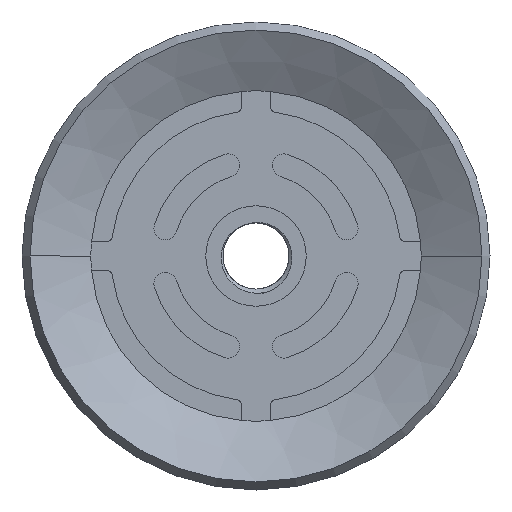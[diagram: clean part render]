
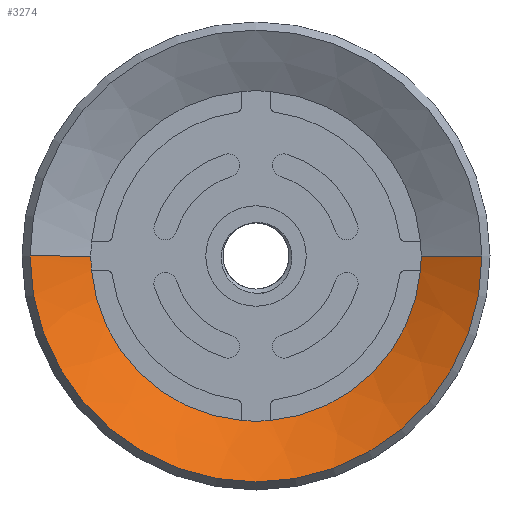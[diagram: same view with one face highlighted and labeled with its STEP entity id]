
A CAD part, front view. The second image highlights one B-rep face of the part: STEP entity #3274.
In plain terms, the highlighted conical face has half-angle 60.489 degrees and reference radius 39.35 mm.
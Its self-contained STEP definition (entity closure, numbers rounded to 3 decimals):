
#68 = CARTESIAN_POINT ( 'NONE',  ( 28.75, -12., 0. ) ) ;
#139 = DIRECTION ( 'NONE',  ( 0., 1., 0. ) ) ;
#183 = CARTESIAN_POINT ( 'NONE',  ( 0., -12., 0. ) ) ;
#202 = ORIENTED_EDGE ( 'NONE', *, *, #5468, .T. ) ;
#280 = AXIS2_PLACEMENT_3D ( 'NONE', #4096, #2733, #5382 ) ;
#539 = CARTESIAN_POINT ( 'NONE',  ( 0., -12., 0. ) ) ;
#724 = CARTESIAN_POINT ( 'NONE',  ( 0., -18., 0. ) ) ;
#816 = CARTESIAN_POINT ( 'NONE',  ( 0., -12., 0. ) ) ;
#1059 = DIRECTION ( 'NONE',  ( -1., 0., 0. ) ) ;
#1136 = DIRECTION ( 'NONE',  ( -1., 0., 0. ) ) ;
#1277 = AXIS2_PLACEMENT_3D ( 'NONE', #3463, #2163, #2586 ) ;
#1359 = VERTEX_POINT ( 'NONE', #3561 ) ;
#1434 = DIRECTION ( 'NONE',  ( -1., 0., 0. ) ) ;
#1455 = EDGE_CURVE ( 'NONE', #3969, #4336, #4588, .T. ) ;
#1485 = ORIENTED_EDGE ( 'NONE', *, *, #1761, .F. ) ;
#1657 = CARTESIAN_POINT ( 'NONE',  ( 28.641, -12., -2.5 ) ) ;
#1660 = DIRECTION ( 'NONE',  ( 0., 1., 0. ) ) ;
#1697 = CIRCLE ( 'NONE', #4687, 28.75 ) ;
#1745 = VERTEX_POINT ( 'NONE', #5141 ) ;
#1761 = EDGE_CURVE ( 'NONE', #4336, #5074, #3903, .T. ) ;
#1799 = DIRECTION ( 'NONE',  ( 0.87, -0.493, 0. ) ) ;
#1810 = LINE ( 'NONE', #4406, #2133 ) ;
#1840 = ORIENTED_EDGE ( 'NONE', *, *, #3744, .T. ) ;
#1861 = DIRECTION ( 'NONE',  ( 0., 0., -1. ) ) ;
#1987 = CIRCLE ( 'NONE', #1277, 28.75 ) ;
#2027 = CONICAL_SURFACE ( 'NONE', #280, 39.35, 1.056 ) ;
#2133 = VECTOR ( 'NONE', #3945, 1000. ) ;
#2142 = VERTEX_POINT ( 'NONE', #1657 ) ;
#2163 = DIRECTION ( 'NONE',  ( 0., 1., 0. ) ) ;
#2205 = CIRCLE ( 'NONE', #3449, 28.75 ) ;
#2257 = CIRCLE ( 'NONE', #4399, 39.35 ) ;
#2423 = EDGE_CURVE ( 'NONE', #1359, #3400, #3834, .T. ) ;
#2483 = CARTESIAN_POINT ( 'NONE',  ( 0., -18., 0. ) ) ;
#2486 = CARTESIAN_POINT ( 'NONE',  ( 0., -18., -39.35 ) ) ;
#2582 = CARTESIAN_POINT ( 'NONE',  ( -28.75, -12., 0. ) ) ;
#2586 = DIRECTION ( 'NONE',  ( -1., 0., 0. ) ) ;
#2670 = FACE_OUTER_BOUND ( 'NONE', #4724, .T. ) ;
#2686 = CARTESIAN_POINT ( 'NONE',  ( 0., -12., 0. ) ) ;
#2733 = DIRECTION ( 'NONE',  ( 0., -1., 0. ) ) ;
#2787 = AXIS2_PLACEMENT_3D ( 'NONE', #183, #5026, #1059 ) ;
#2954 = CARTESIAN_POINT ( 'NONE',  ( 39.35, -18., 0. ) ) ;
#2997 = DIRECTION ( 'NONE',  ( 1., 0., 0. ) ) ;
#3274 = ADVANCED_FACE ( 'NONE', ( #2670 ), #2027, .F. ) ;
#3291 = VECTOR ( 'NONE', #1799, 1000. ) ;
#3400 = VERTEX_POINT ( 'NONE', #4547 ) ;
#3449 = AXIS2_PLACEMENT_3D ( 'NONE', #539, #3628, #1861 ) ;
#3463 = CARTESIAN_POINT ( 'NONE',  ( 0., -12., 0. ) ) ;
#3510 = EDGE_CURVE ( 'NONE', #5074, #5147, #2257, .T. ) ;
#3527 = CARTESIAN_POINT ( 'NONE',  ( -39.35, -18., 0. ) ) ;
#3561 = CARTESIAN_POINT ( 'NONE',  ( 2.5, -12., -28.641 ) ) ;
#3628 = DIRECTION ( 'NONE',  ( 0., 1., 0. ) ) ;
#3744 = EDGE_CURVE ( 'NONE', #2142, #1359, #1697, .T. ) ;
#3754 = DIRECTION ( 'NONE',  ( 0., 1., 0. ) ) ;
#3803 = VERTEX_POINT ( 'NONE', #2582 ) ;
#3834 = CIRCLE ( 'NONE', #5000, 28.75 ) ;
#3903 = CIRCLE ( 'NONE', #5243, 39.35 ) ;
#3945 = DIRECTION ( 'NONE',  ( -0.87, -0.493, 0. ) ) ;
#3969 = VERTEX_POINT ( 'NONE', #68 ) ;
#4096 = CARTESIAN_POINT ( 'NONE',  ( 0., -18., 0. ) ) ;
#4145 = EDGE_CURVE ( 'NONE', #3400, #1745, #2205, .T. ) ;
#4150 = ORIENTED_EDGE ( 'NONE', *, *, #1455, .F. ) ;
#4336 = VERTEX_POINT ( 'NONE', #2954 ) ;
#4399 = AXIS2_PLACEMENT_3D ( 'NONE', #2483, #3754, #1136 ) ;
#4400 = CARTESIAN_POINT ( 'NONE',  ( 39.35, -18., 0. ) ) ;
#4406 = CARTESIAN_POINT ( 'NONE',  ( -39.35, -18., 0. ) ) ;
#4499 = ORIENTED_EDGE ( 'NONE', *, *, #4662, .T. ) ;
#4547 = CARTESIAN_POINT ( 'NONE',  ( -2.5, -12., -28.641 ) ) ;
#4588 = LINE ( 'NONE', #4400, #3291 ) ;
#4662 = EDGE_CURVE ( 'NONE', #1745, #3803, #4827, .T. ) ;
#4687 = AXIS2_PLACEMENT_3D ( 'NONE', #816, #1660, #2997 ) ;
#4724 = EDGE_LOOP ( 'NONE', ( #4499, #202, #5270, #1485, #4150, #5208, #1840, #5434, #5542 ) ) ;
#4827 = CIRCLE ( 'NONE', #2787, 28.75 ) ;
#5000 = AXIS2_PLACEMENT_3D ( 'NONE', #2686, #139, #1434 ) ;
#5026 = DIRECTION ( 'NONE',  ( 0., 1., 0. ) ) ;
#5074 = VERTEX_POINT ( 'NONE', #2486 ) ;
#5141 = CARTESIAN_POINT ( 'NONE',  ( -28.641, -12., -2.5 ) ) ;
#5147 = VERTEX_POINT ( 'NONE', #3527 ) ;
#5158 = EDGE_CURVE ( 'NONE', #3969, #2142, #1987, .T. ) ;
#5208 = ORIENTED_EDGE ( 'NONE', *, *, #5158, .T. ) ;
#5243 = AXIS2_PLACEMENT_3D ( 'NONE', #724, #5579, #5614 ) ;
#5270 = ORIENTED_EDGE ( 'NONE', *, *, #3510, .F. ) ;
#5382 = DIRECTION ( 'NONE',  ( 1., 0., 0. ) ) ;
#5434 = ORIENTED_EDGE ( 'NONE', *, *, #2423, .T. ) ;
#5468 = EDGE_CURVE ( 'NONE', #3803, #5147, #1810, .T. ) ;
#5542 = ORIENTED_EDGE ( 'NONE', *, *, #4145, .T. ) ;
#5579 = DIRECTION ( 'NONE',  ( 0., 1., 0. ) ) ;
#5614 = DIRECTION ( 'NONE',  ( -1., 0., 0. ) ) ;
